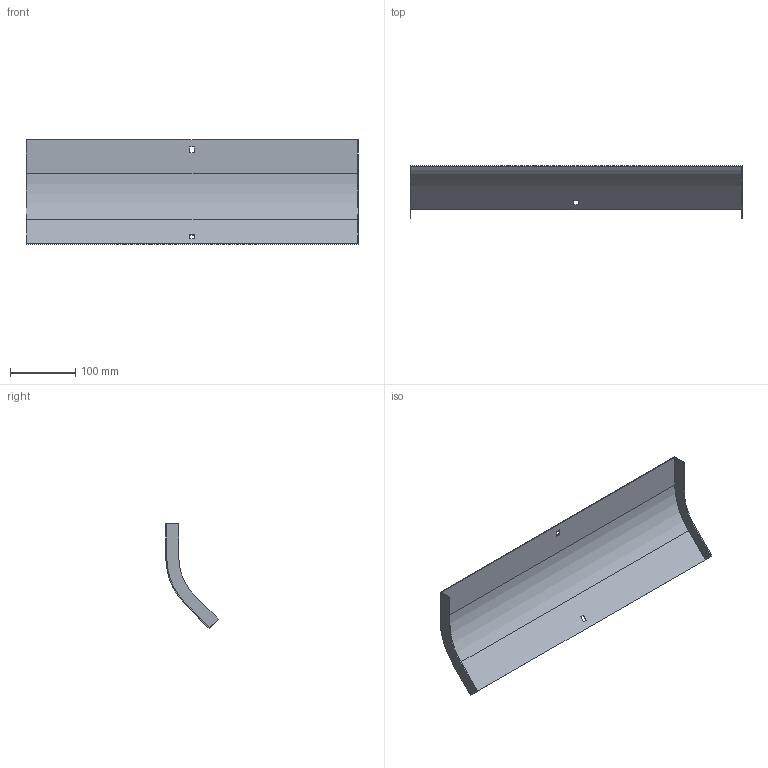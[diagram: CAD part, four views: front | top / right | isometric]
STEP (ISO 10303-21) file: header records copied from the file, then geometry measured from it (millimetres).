
FILE_DESCRIPTION (( 'STEP AP214' ), '1' );
FILE_NAME ('34G1B500.step', '2025-02-21T12:43:04', ( '' ), ( '' ), 'SwSTEP 2.0', 'SolidWorks 2023', '' );
FILE_SCHEMA (( 'AUTOMOTIVE_DESIGN' ));
Length unit declared in the file: millimetre
Products named in the file (1): 34G1B500
Bounding box: 507 x 80.32 x 159.76 mm (x, y, z)
Volume: 148071 mm3; surface area: 199656.1 mm2
Topology: 1 solids, 1 shells, 26 faces, 72 edges, 48 vertices
Faces by surface type: plane 22, cylinder 4
Entity records: 855 total; most frequent: CARTESIAN_POINT 147, ORIENTED_EDGE 144, DIRECTION 134, EDGE_CURVE 72, VECTOR 64, LINE 64, VERTEX_POINT 48, AXIS2_PLACEMENT_3D 35
